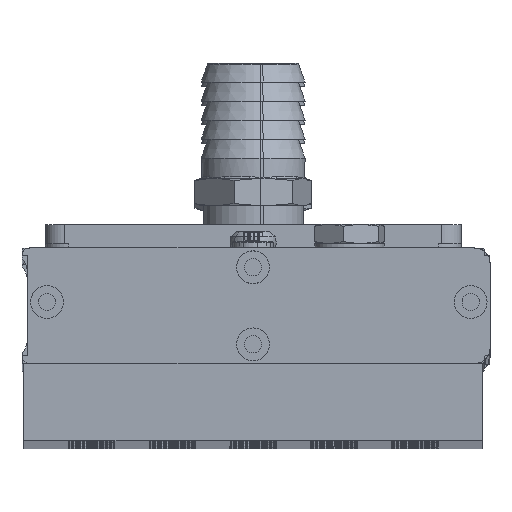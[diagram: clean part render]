
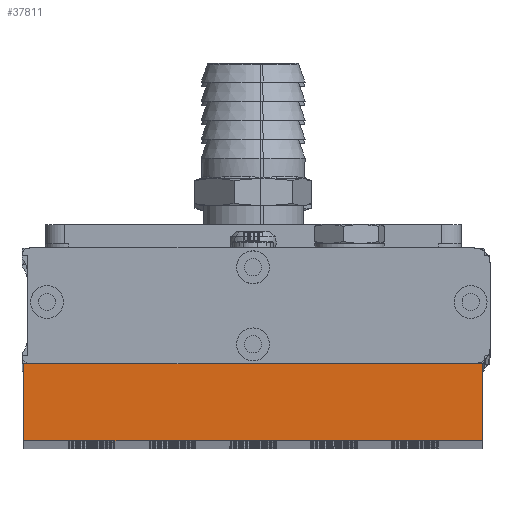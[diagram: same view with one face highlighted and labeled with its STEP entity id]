
A CAD part, top view. The second image highlights one B-rep face of the part: STEP entity #37811.
In plain terms, the highlighted planar face has unit normal (0, 0, 1).
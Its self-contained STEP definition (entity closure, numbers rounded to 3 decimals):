
#1697 = CARTESIAN_POINT ( 'NONE',  ( -82.6, -51.3, 622. ) ) ;
#3461 = CARTESIAN_POINT ( 'NONE',  ( -82.6, -51.3, 622. ) ) ;
#3946 = EDGE_CURVE ( 'NONE', #11063, #54670, #8537, .T. ) ;
#4187 = DIRECTION ( 'NONE',  ( 0., 1., 0. ) ) ;
#4534 = EDGE_LOOP ( 'NONE', ( #27992, #5915, #7473, #12815 ) ) ;
#5462 = CARTESIAN_POINT ( 'NONE',  ( -82.6, -71.3, 622. ) ) ;
#5915 = ORIENTED_EDGE ( 'NONE', *, *, #26683, .F. ) ;
#7473 = ORIENTED_EDGE ( 'NONE', *, *, #53192, .F. ) ;
#8530 = FACE_OUTER_BOUND ( 'NONE', #4534, .T. ) ;
#8537 = LINE ( 'NONE', #5462, #67825 ) ;
#11063 = VERTEX_POINT ( 'NONE', #50212 ) ;
#12815 = ORIENTED_EDGE ( 'NONE', *, *, #67506, .T. ) ;
#17913 = VERTEX_POINT ( 'NONE', #43895 ) ;
#18124 = CARTESIAN_POINT ( 'NONE',  ( 36.4, -51.3, 622. ) ) ;
#18998 = DIRECTION ( 'NONE',  ( 1., 0., 0. ) ) ;
#20523 = DIRECTION ( 'NONE',  ( 0., 0., -1. ) ) ;
#26683 = EDGE_CURVE ( 'NONE', #34842, #54670, #27779, .T. ) ;
#26947 = DIRECTION ( 'NONE',  ( 0., -1., 0. ) ) ;
#27779 = LINE ( 'NONE', #18124, #56566 ) ;
#27992 = ORIENTED_EDGE ( 'NONE', *, *, #3946, .T. ) ;
#28508 = AXIS2_PLACEMENT_3D ( 'NONE', #3461, #20523, #4187 ) ;
#29030 = LINE ( 'NONE', #50355, #29978 ) ;
#29978 = VECTOR ( 'NONE', #26947, 1000. ) ;
#30172 = DIRECTION ( 'NONE',  ( 0., -1., 0. ) ) ;
#34842 = VERTEX_POINT ( 'NONE', #39774 ) ;
#37811 = ADVANCED_FACE ( 'NONE', ( #8530 ), #72180, .F. ) ;
#38088 = LINE ( 'NONE', #1697, #40753 ) ;
#39774 = CARTESIAN_POINT ( 'NONE',  ( 36.4, -51.3, 622. ) ) ;
#40753 = VECTOR ( 'NONE', #18998, 1000. ) ;
#43895 = CARTESIAN_POINT ( 'NONE',  ( -82.6, -51.3, 622. ) ) ;
#49968 = CARTESIAN_POINT ( 'NONE',  ( 36.4, -71.3, 622. ) ) ;
#50212 = CARTESIAN_POINT ( 'NONE',  ( -82.6, -71.3, 622. ) ) ;
#50355 = CARTESIAN_POINT ( 'NONE',  ( -82.6, -51.3, 622. ) ) ;
#53192 = EDGE_CURVE ( 'NONE', #17913, #34842, #38088, .T. ) ;
#54670 = VERTEX_POINT ( 'NONE', #49968 ) ;
#56566 = VECTOR ( 'NONE', #30172, 1000. ) ;
#67506 = EDGE_CURVE ( 'NONE', #17913, #11063, #29030, .T. ) ;
#67825 = VECTOR ( 'NONE', #74198, 1000. ) ;
#72180 = PLANE ( 'NONE',  #28508 ) ;
#74198 = DIRECTION ( 'NONE',  ( 1., 0., 0. ) ) ;
